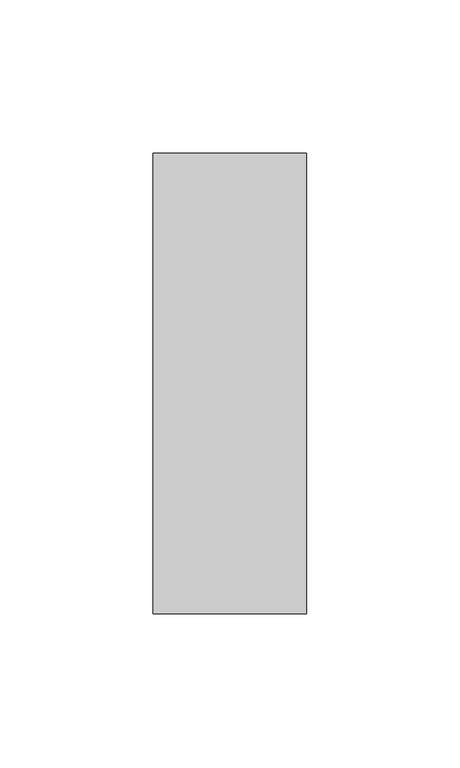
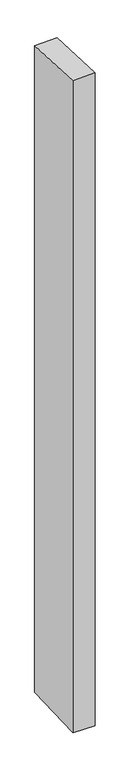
"""IFC4 building model written with IfcOpenShell, lengths in millimetres: member geometry, Прямоугольный импост : 50 x 150 мм."""

import ifcopenshell
import ifcopenshell.guid

model = None  # the IFC model being written
_history = None  # IfcOwnerHistory: only IFC2X3 demands one
_inside = {}  # id of a spatial element -> (the spatial element, [elements in it])
_under = {}  # id of a project, library or spatial element -> (it, [spatial elements below it])
_declared = {}  # id of a project -> (the project, [libraries it declares])
_typed = {}  # id of a type object -> (the type object, [elements of that type])
_made_of = {}  # id of a material, layer set ... -> (it, [elements and type objects made of it])


def new_model(schema):
    """Start an empty IFC model of exactly this schema.

    Asked for "IFC4X3", IfcOpenShell would pick the latest addendum, in which some entities
    have other attributes; the version numbers below select the first issue.
    IFC2X3 requires an IfcOwnerHistory on every rooted entity: one is made here for all.
    """
    global model, _history
    if schema == "IFC4X3":
        model = ifcopenshell.file(schema_version=(4, 3, 0, 0))
    else:
        model = ifcopenshell.file(schema=schema)
    _inside.clear()
    _under.clear()
    _declared.clear()
    _typed.clear()
    _made_of.clear()
    _history = None
    if model.schema == "IFC2X3":
        org = make("IfcOrganization", Name="unknown")
        user = make(
            "IfcPersonAndOrganization",
            ThePerson=make("IfcPerson", FamilyName="unknown"),
            TheOrganization=org,
        )
        app = make(
            "IfcApplication",
            ApplicationDeveloper=org,
            Version="unknown",
            ApplicationFullName="unknown",
            ApplicationIdentifier="unknown",
        )
        _history = make(
            "IfcOwnerHistory",
            OwningUser=user,
            OwningApplication=app,
            ChangeAction="ADDED",
            CreationDate=0,
        )
    return model


def make(cls, **values):
    """One entity of the class cls with the attributes given. An attribute that is None is left unset."""
    return model.create_entity(
        cls, **{name: value for name, value in values.items() if value is not None}
    )


def rooted(cls, **values):
    """An entity with a GlobalId (a new one), such as an element, a storey or a relation."""
    return make(cls, GlobalId=ifcopenshell.guid.new(), OwnerHistory=_history, **values)


def si_unit(unit_type, name, prefix=None):
    """IfcSIUnit, for example si_unit("LENGTHUNIT", "METRE", prefix="MILLI")."""
    return make("IfcSIUnit", UnitType=unit_type, Prefix=prefix, Name=name)


def assignment(units):
    """IfcUnitAssignment: the units of a project."""
    return None if units is None else make("IfcUnitAssignment", Units=units)


def point(xyz):
    """IfcCartesianPoint."""
    return None if xyz is None else make("IfcCartesianPoint", Coordinates=xyz)


def direction(xyz):
    """IfcDirection."""
    return None if xyz is None else make("IfcDirection", DirectionRatios=xyz)


def frame(location, z_axis=None, x_axis=None):
    """IfcAxis2Placement3D, a coordinate frame: its origin and axes. An axis left out is left unset."""
    return make(
        "IfcAxis2Placement3D",
        Location=point(location),
        Axis=direction(z_axis),
        RefDirection=direction(x_axis),
    )


def origin():
    """The frame at (0, 0, 0) with its axes left unset."""
    return frame((0.0, 0.0, 0.0))


def place(relative_to, where):
    """IfcLocalPlacement: puts the frame where relative to a parent placement (None: the world)."""
    return make(
        "IfcLocalPlacement", PlacementRelTo=relative_to, RelativePlacement=where
    )


def context(
    kind, dimensions, precision=None, world=None, true_north=None, identifier=None
):
    """IfcGeometricRepresentationContext, for example the 3D "Model" context."""
    return make(
        "IfcGeometricRepresentationContext",
        ContextIdentifier=identifier,
        ContextType=kind,
        CoordinateSpaceDimension=dimensions,
        Precision=precision,
        WorldCoordinateSystem=world,
        TrueNorth=true_north,
    )


def project(units=None, contexts=None):
    """IfcProject with its units and contexts."""
    return rooted(
        "IfcProject",
        Name="project",
        RepresentationContexts=contexts,
        UnitsInContext=assignment(units),
    )


def spatial(cls, under=None, at=None, **own):
    """A site, building, storey or space (cls), placed at a placement, below another one or the project."""
    s = rooted(cls, ObjectPlacement=at, **own)
    if under is not None:
        _under.setdefault(under.id(), (under, []))[1].append(s)
    return s


def faces_of(points, faces, orient=None, outer=None):
    """IfcFace entities. A face is a list of loops; a loop is a list of indices into points, from 0.

    orient and outer hold one flag for each loop. By default every Orientation is true, the
    first loop of a face is its IfcFaceOuterBound and the others are IfcFaceBound.
    """
    made = []
    for i, loops in enumerate(faces):
        bounds = []
        for j, loop in enumerate(loops):
            is_outer = j == 0 if outer is None else outer[i][j]
            bounds.append(
                make(
                    "IfcFaceOuterBound" if is_outer else "IfcFaceBound",
                    Bound=make("IfcPolyLoop", Polygon=[points[k] for k in loop]),
                    Orientation=True if orient is None else orient[i][j],
                )
            )
        made.append(make("IfcFace", Bounds=bounds))
    return made


def faceted_brep(points, faces, orient=None, outer=None, voids=None):
    """IfcFacetedBrep: a solid bounded by flat faces; with voids (closed shells), ...WithVoids."""
    shared = [point(p) for p in points]
    hull = make("IfcClosedShell", CfsFaces=faces_of(shared, faces, orient, outer))
    if voids is None:
        return make("IfcFacetedBrep", Outer=hull)
    return make(
        "IfcFacetedBrepWithVoids",
        Outer=hull,
        Voids=[
            make(cls, CfsFaces=faces_of(shared, fs, o, b)) for cls, fs, o, b in voids
        ],
    )


def shape(context_of_items, identifier, shape_type, items):
    """IfcShapeRepresentation: the items that make up one representation, for example the "Body"."""
    return make(
        "IfcShapeRepresentation",
        ContextOfItems=context_of_items,
        RepresentationIdentifier=identifier,
        RepresentationType=shape_type,
        Items=items,
    )


def source(mapping_origin, context_of_items, identifier, shape_type, items):
    """IfcRepresentationMap: a shape defined once, which mapped items show again and again."""
    return make(
        "IfcRepresentationMap",
        MappingOrigin=mapping_origin,
        MappedRepresentation=shape(context_of_items, identifier, shape_type, items),
    )


def transform(
    local_origin,
    x_axis=None,
    y_axis=None,
    z_axis=None,
    scale=None,
    scale2=None,
    scale3=None,
    uniform=True,
):
    """IfcCartesianTransformationOperator3D, or its non-uniform kind. x_axis, y_axis, z_axis: its Axis1, 2, 3."""
    if uniform:
        return make(
            "IfcCartesianTransformationOperator3D",
            Axis1=direction(x_axis),
            Axis2=direction(y_axis),
            LocalOrigin=point(local_origin),
            Scale=scale,
            Axis3=direction(z_axis),
        )
    return make(
        "IfcCartesianTransformationOperator3DnonUniform",
        Axis1=direction(x_axis),
        Axis2=direction(y_axis),
        LocalOrigin=point(local_origin),
        Scale=scale,
        Axis3=direction(z_axis),
        Scale2=scale2,
        Scale3=scale3,
    )


def mapped(mapping_source, mapping_target):
    """IfcMappedItem: shows the shape of a source again, moved by a transform."""
    return make(
        "IfcMappedItem", MappingSource=mapping_source, MappingTarget=mapping_target
    )


def made_of(thing, what):
    """Note that an element or type object is made of a material, layer set ...; save() writes the relation."""
    if what is not None:
        _made_of.setdefault(what.id(), (what, []))[1].append(thing)
    return thing


def element(
    cls,
    number,
    at=None,
    inside=None,
    cuts=None,
    type_object=None,
    material=None,
    context=None,
    identifier="Body",
    shape_type=None,
    held_by="IfcProductDefinitionShape",
    body=None,
    shapes=None,
    **own,
):
    """One element of the class cls, such as IfcWall. Its Tag is "e" and its number.

    at: its placement. inside: the storey or other place that contains it. cuts: it is an
    opening in that element (IfcRelVoidsElement). A single representation is given by context,
    identifier, shape_type and body (its items); several are given by shapes. held_by: the class
    of the entity that holds the representations. save() writes the other relations.
    """
    e = rooted(cls, Tag="e%d" % number, ObjectPlacement=at, **own)
    if body is not None:
        shapes = [shape(context, identifier, shape_type, body)]
    if shapes is not None:
        e.Representation = make(held_by, Representations=shapes)
    if inside is not None:
        _inside.setdefault(inside.id(), (inside, []))[1].append(e)
    if cuts is not None:
        rooted(
            "IfcRelVoidsElement", RelatingBuildingElement=cuts, RelatedOpeningElement=e
        )
    if type_object is not None:
        _typed.setdefault(type_object.id(), (type_object, []))[1].append(e)
    return made_of(e, material)


def aggregate(whole, parts):
    """IfcRelAggregates: a whole, such as a stair, and the parts it consists of."""
    return rooted("IfcRelAggregates", RelatingObject=whole, RelatedObjects=parts)


def save(model, path):
    """Write the relations noted so far, then the file.

    IfcRelAggregates (storeys below a building ...), IfcRelContainedInSpatialStructure (elements
    in a storey), IfcRelDefinesByType, IfcRelAssociatesMaterial and IfcRelDeclares: one each for
    every whole, place, type object, material and project.
    """
    for whole, parts in _under.values():
        aggregate(whole, parts)
    for where, things in _inside.values():
        rooted(
            "IfcRelContainedInSpatialStructure",
            RelatedElements=things,
            RelatingStructure=where,
        )
    for kind, things in _typed.values():
        rooted("IfcRelDefinesByType", RelatedObjects=things, RelatingType=kind)
    for what, things in _made_of.values():
        rooted("IfcRelAssociatesMaterial", RelatedObjects=things, RelatingMaterial=what)
    for by, libraries in _declared.values():
        rooted("IfcRelDeclares", RelatingContext=by, RelatedDefinitions=libraries)
    model.write(path)


def member_db98b115(model_context):
    return source(origin(), model_context, "Body", "Brep", [
        faceted_brep([(-25.0, 75.0, -4.0774845), (25.0, 75.0, -2.6286904), (25.0, 75.0, -1549.9882252), (-25.0, 75.0, -1548.6484628), (-25.0, -75.0, 2.6286904), (-25.0, -75.0, -1553.6525027), (25.0, -75.0, 4.0774845), (25.0, -75.0, -1554.9922651)], [[[0, 1, 2, 3]], [[4, 0, 3, 5]], [[6, 4, 5, 7]], [[1, 6, 7, 2]], [[1, 0, 4, 6]], [[2, 7, 5, 3]]]),
    ])


if __name__ == "__main__":
    model = new_model("IFC4")
    model_context = context("Model", 3, world=origin())
    ifc_project = project(units=[si_unit("LENGTHUNIT", "METRE", prefix="MILLI")], contexts=[model_context])
    site = spatial("IfcSite", under=ifc_project)
    building = spatial("IfcBuilding", under=site)
    placement = place(None, origin())
    member_shape = member_db98b115(model_context)
    element("IfcMember", 1, ObjectType="Прямоугольный импост : 50 x 150 мм", at=placement, inside=building, context=model_context, shape_type="MappedRepresentation", body=[
        mapped(member_shape, transform((0.0, 0.0, 0.0), x_axis=(1.0, 0.0, 0.0), y_axis=(0.0, 1.0, 0.0), z_axis=(0.0, 0.0, 1.0))),
    ])
    save(model, "model.ifc")
